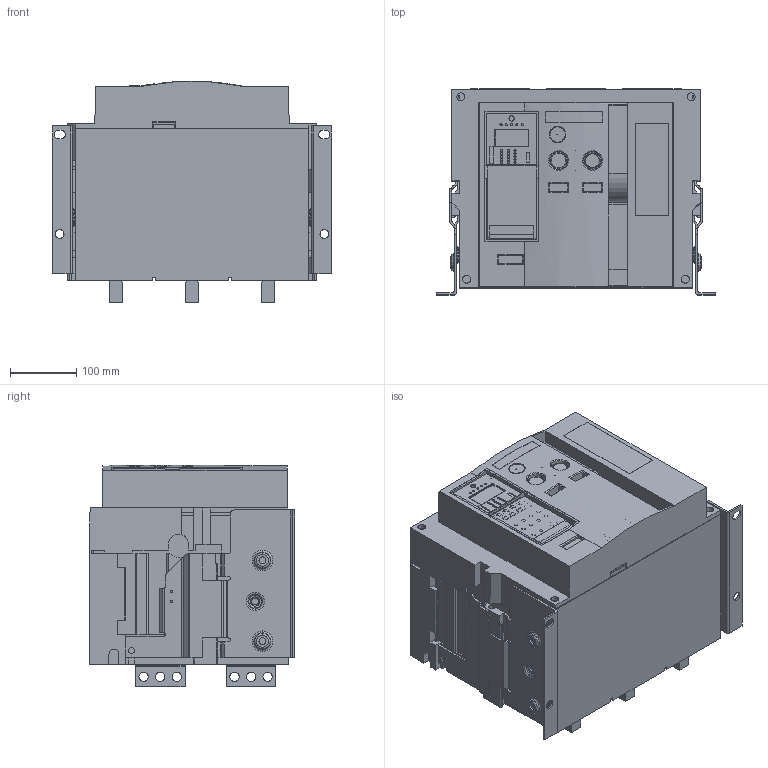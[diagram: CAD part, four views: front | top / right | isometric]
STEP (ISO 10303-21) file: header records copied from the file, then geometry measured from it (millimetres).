
FILE_DESCRIPTION (( 'STEP AP214' ), '1' );
FILE_NAME ('OptiMat A-S4-BH-2500-3200-3P-F-V.STEP', '2023-08-03T11:15:47', ( '' ), ( '' ), 'SwSTEP 2.0', 'SolidWorks 2018', '' );
FILE_SCHEMA (( 'AUTOMOTIVE_DESIGN' ));
Length unit declared in the file: millimetre
Products named in the file (1): OptiMat A-S4-BH-2500-3200-3P-F-V
Bounding box: 421 x 310.5 x 333.81 mm (x, y, z)
Volume: 27848567.4 mm3; surface area: 1488734.5 mm2
Topology: 12 solids, 36 shells, 2990 faces, 8276 edges, 5443 vertices
Faces by surface type: plane 1894, cylinder 824, cone 121, torus 117, bspline 34
Entity records: 134913 total; most frequent: CARTESIAN_POINT 24497, ORIENTED_EDGE 16532, DIRECTION 15949, EDGE_CURVE 8266, LINE 5815, VECTOR 5815, VERTEX_POINT 5443, AXIS2_PLACEMENT_3D 5067
